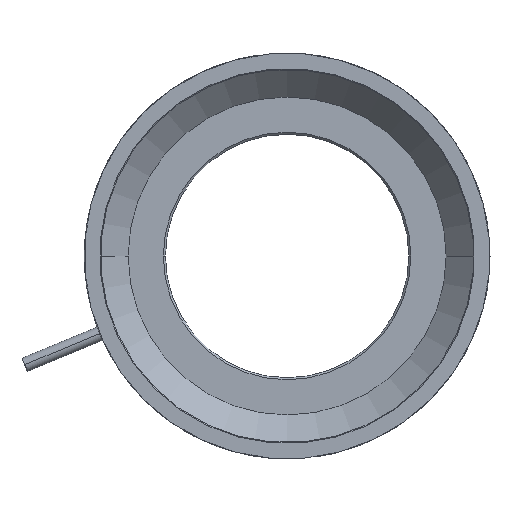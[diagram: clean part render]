
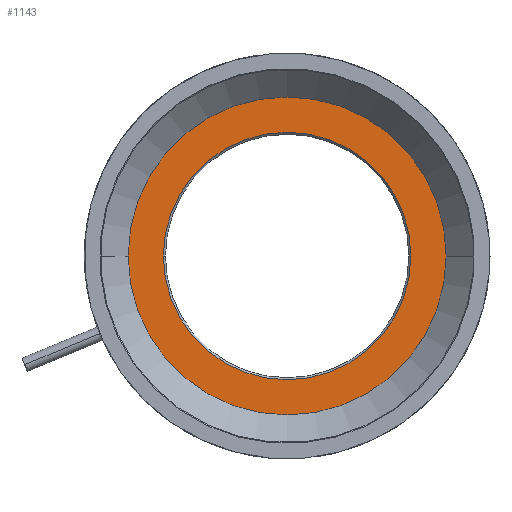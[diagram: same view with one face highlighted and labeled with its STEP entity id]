
A CAD part, front view. The second image highlights one B-rep face of the part: STEP entity #1143.
In plain terms, the highlighted planar face has unit normal (0, -1, 0).
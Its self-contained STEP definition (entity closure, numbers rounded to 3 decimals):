
#210=CARTESIAN_POINT('',(0.,-3.76,0.));
#211=DIRECTION('',(0.,-1.,0.));
#212=DIRECTION('',(-1.,0.,0.));
#213=AXIS2_PLACEMENT_3D('',#210,#211,#212);
#215=CARTESIAN_POINT('',(0.,-3.76,0.));
#216=DIRECTION('',(0.,1.,0.));
#217=DIRECTION('',(-1.,0.,0.));
#218=AXIS2_PLACEMENT_3D('',#215,#216,#217);
#220=CARTESIAN_POINT('',(0.,-3.76,
0.));
#221=DIRECTION('',(0.,-1.,0.));
#222=DIRECTION('',(1.,0.,0.));
#223=AXIS2_PLACEMENT_3D('',#220,#221,#222);
#225=CARTESIAN_POINT('',(0.,-3.76,
0.));
#226=DIRECTION('',(0.,-1.,0.));
#227=DIRECTION('',(-1.,0.,0.));
#228=AXIS2_PLACEMENT_3D('',#225,#226,#227);
#682=CARTESIAN_POINT('',(30.5,-3.76,0.));
#683=CARTESIAN_POINT('',(-30.5,-3.76,0.));
#684=VERTEX_POINT('',#682);
#685=VERTEX_POINT('',#683);
#702=CARTESIAN_POINT('',(-39.2,-3.76,0.));
#703=VERTEX_POINT('',#702);
#704=CARTESIAN_POINT('',(39.2,-3.76,0.));
#705=VERTEX_POINT('',#704);
#1128=CARTESIAN_POINT('',(0.,-3.76,0.));
#1129=DIRECTION('',(0.,-1.,0.));
#1130=DIRECTION('',(-1.,0.,0.));
#1131=AXIS2_PLACEMENT_3D('',#1128,#1129,#1130);
#1132=PLANE('',#1131);
#1134=ORIENTED_EDGE('',*,*,#1133,.F.);
#1136=ORIENTED_EDGE('',*,*,#1135,.T.);
#1137=EDGE_LOOP('',(#1134,#1136));
#1138=FACE_OUTER_BOUND('',#1137,.F.);
#1139=ORIENTED_EDGE('',*,*,#1110,.T.);
#1140=ORIENTED_EDGE('',*,*,#1095,.T.);
#1141=EDGE_LOOP('',(#1139,#1140));
#1142=FACE_BOUND('',#1141,.F.);
#214=CIRCLE('',#213,39.2);
#219=CIRCLE('',#218,39.2);
#224=CIRCLE('',#223,30.5);
#229=CIRCLE('',#228,30.5);
#1095=EDGE_CURVE('',#685,#684,#229,.T.);
#1110=EDGE_CURVE('',#684,#685,#224,.T.);
#1133=EDGE_CURVE('',#703,#705,#214,.T.);
#1135=EDGE_CURVE('',#703,#705,#219,.T.);
#1143=ADVANCED_FACE('',(#1138,#1142),#1132,.T.);
